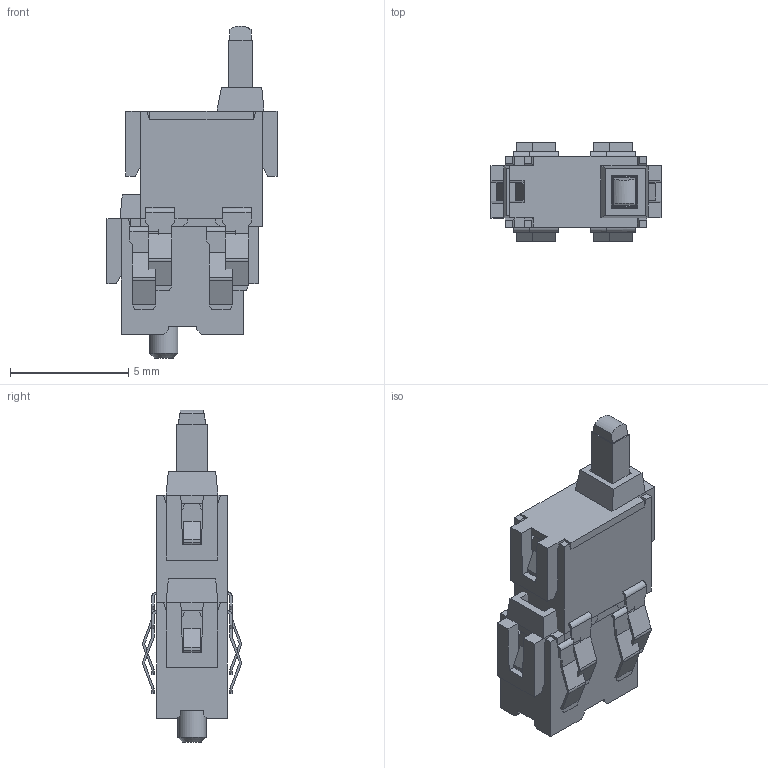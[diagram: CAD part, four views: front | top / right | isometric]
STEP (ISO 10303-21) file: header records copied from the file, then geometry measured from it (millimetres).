
FILE_DESCRIPTION( ( 'Unknown' ), '1' );
FILE_NAME( '//Ntcw022/edgesv/fsw/ユーザ提出用データ/ﾃﾞｨﾃｸﾀｰｽｲｯﾁ/ESE11/ese11sv1-std-sk.stp', 'Unknown', ( 'Unknown' ), ( 'Unknown' ), 'PSStep 10.0', 'Unknown', ' ' );
FILE_SCHEMA( ( 'AUTOMOTIVE_DESIGN { 1 0 10303 214 1 1 1 1 }' ) );
Length unit declared in the file: millimetre
Products named in the file (6): Assem1; sw-3d-131-e11cs1-mh24-sk-r01; sw-3d-131-e11cv4-mh-sk-r00; sw-3d-131-e11lv-mh-sk-r00; sw-3d-131-e11ts1-sv-sk-r00
Bounding box: 7.2 x 4.2 x 14.05 mm (x, y, z)
Volume: 179.8 mm3; surface area: 542.6 mm2
Topology: 10 solids, 10 shells, 468 faces, 1290 edges, 842 vertices
Faces by surface type: plane 422, cylinder 44, cone 2
Full cylindrical faces by diameter (mm): 1.2 x2
Entity records: 9277 total; most frequent: CARTESIAN_POINT 1310, ORIENTED_EDGE 1286, DIRECTION 1166, EDGE_CURVE 643, LINE 596, VECTOR 596, VERTEX_POINT 421, AXIS2_PLACEMENT_3D 285
